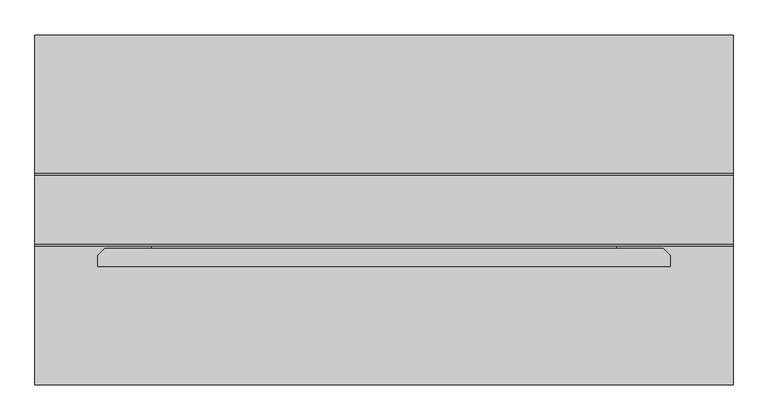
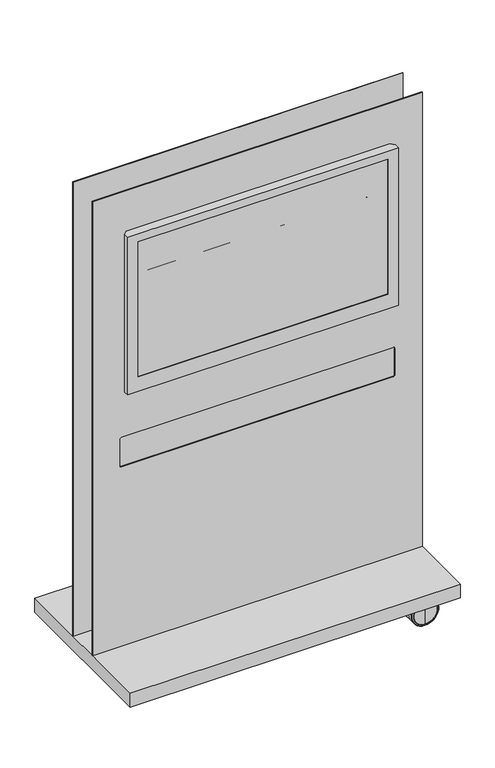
"""IFC4 building model written with IfcOpenShell, lengths in millimetres: furniture geometry, Steelcase Coalesse - Exponents - Storage - Mobile Display Board : Mediaboard."""

from ifc_helpers import new_model, si_unit, point, frame, frame_2d, origin, place, context, project, spatial, polyline, circle_curve, ellipse_curve, trimmed, segment, composite_curve, outline, extrude, faceted_brep, source, transform, mapped, element, save
from ifc_brep_helpers import plane_surface, cylinder_surface, revolved_surface, advanced_brep


def furniture_46024d2c(model_context):
    return source(origin(), model_context, "Body", "SolidModel", [
        faceted_brep([(1109.6625, 90.0328683, 1772.75196), (1097.1304915, 102.5648768, 1772.75196), (122.0695085, 102.5648768, 1772.75196), (109.5375, 90.0328683, 1772.75196), (109.5375, 70.9828683, 1772.75196), (1109.6625, 70.9828683, 1772.75196), (1109.6625, 90.0328683, 1156.80196), (1109.6625, 70.9828683, 1156.80196), (109.5375, 70.9828683, 1156.80196), (109.5375, 90.0328683, 1156.80196), (122.0695085, 102.5648768, 1156.80196), (1097.1304915, 102.5648768, 1156.80196), (147.6375, 70.9828683, 1213.95196), (147.6375, 70.9828683, 1741.00196), (1071.5625, 70.9828683, 1741.00196), (1071.5625, 70.9828683, 1213.95196), (147.6375, 73.5228683, 1741.00196), (147.6375, 73.5228683, 1213.95196), (1071.5625, 73.5228683, 1741.00196), (1071.5625, 73.5228683, 1213.95196)], [[[0, 1, 2, 3, 4, 5]], [[6, 7, 8, 9, 10, 11]], [[1, 0, 6, 11]], [[2, 1, 11, 10]], [[3, 2, 10, 9]], [[4, 3, 9, 8]], [[5, 4, 8, 7], [12, 13, 14, 15]], [[0, 5, 7, 6]], [[16, 13, 12, 17]], [[18, 19, 15, 14]], [[16, 17, 19, 18]], [[17, 12, 15, 19]], [[13, 16, 18, 14]]]),
        extrude(outline(polyline([(1219.2, 231.2568925), (0.0, 231.2568925), (0.0, 233.7968925), (1219.2, 233.7968925), (1219.2, 231.2568925)])), frame((0.0, 0.0, 155.2702), z_axis=(0.0, 0.0, 1.0), x_axis=(1.0, 0.0, 0.0)), (0.0, 0.0, 1.0), 1773.428),
        extrude(outline(polyline([(1928.6982, 1219.2), (1928.6982, 0.0), (155.2702, 0.0), (155.2702, 1219.2), (1928.6982, 1219.2)]), holes=[polyline([(1376.705357, 351.6850016), (1376.705357, 424.2850033), (1304.1054279, 424.2850033), (1304.1054279, 351.6850016), (1376.705357, 351.6850016)]), polyline([(1380.3122589, 664.3150105), (1329.512162, 664.3150105), (1329.512162, 554.8849895), (1380.3122589, 554.8849895), (1380.3122589, 664.3150105)]), polyline([(1376.705357, 867.5149984), (1304.1054279, 867.5149984), (1304.1054279, 794.9149967), (1376.705357, 794.9149967), (1376.705357, 867.5149984)]), composite_curve([segment(polyline([(969.6054239, 107.950003), (969.6054239, 1111.249997)]), True, "CONTINUOUS"), segment(trimmed(circle_curve(frame_2d((963.2554239, 1111.249997)), 6.35), [point((969.6054239, 1111.249997))], [point((963.2554239, 1117.599997))], True, "CARTESIAN"), True, "CONTINUOUS"), segment(polyline([(963.2554239, 1117.599997), (861.6554239, 1117.599997)]), True, "CONTINUOUS"), segment(trimmed(circle_curve(frame_2d((861.6554239, 1111.249997)), 6.35), [point((861.6554239, 1117.599997))], [point((855.3054239, 1111.249997))], True, "CARTESIAN"), True, "CONTINUOUS"), segment(polyline([(855.3054239, 1111.249997), (855.3054239, 107.950003)]), True, "CONTINUOUS"), segment(trimmed(circle_curve(frame_2d((861.6554239, 107.950003)), 6.35), [point((855.3054239, 107.950003))], [point((861.6554239, 101.600003))], True, "CARTESIAN"), True, "CONTINUOUS"), segment(polyline([(861.6554239, 101.600003), (963.2554239, 101.600003)]), True, "CONTINUOUS"), segment(trimmed(circle_curve(frame_2d((963.2554239, 107.950003)), 6.35), [point((963.2554239, 101.600003))], [point((969.6054239, 107.950003))], True, "CARTESIAN"), True, "CONTINUOUS")], self_intersect=False)]), frame((0.0, 106.7968683, 0.0), z_axis=(0.0, 1.0, 0.0), x_axis=(0.0, 0.0, 1.0)), (0.0, 0.0, 1.0), 2.54),
        extrude(outline(composite_curve([segment(polyline([(94.452491, 1584.0963318), (94.452491, 1591.6403974)]), True, "CONTINUOUS"), segment(trimmed(circle_curve(frame_2d((97.8304331, 1591.6403974)), 3.3779422), [point((94.452491, 1591.6403974))], [point((97.8304331, 1595.0183395))], False, "CARTESIAN"), True, "CONTINUOUS"), segment(polyline([(97.8304331, 1595.0183395), (103.7812926, 1595.0183395)]), True, "CONTINUOUS"), segment(trimmed(circle_curve(frame_2d((103.7812926, 1592.0027454)), 3.0155942), [point((103.7812926, 1595.0183395))], [point((106.7968868, 1592.0027454))], False, "CARTESIAN"), True, "CONTINUOUS"), segment(polyline([(106.7968868, 1592.0027454), (106.7968868, 1383.609313)]), True, "CONTINUOUS"), segment(trimmed(circle_curve(frame_2d((103.8807688, 1383.609313)), 2.9161181), [point((106.7968868, 1383.609313))], [point((103.8807688, 1380.693195))], False, "CARTESIAN"), True, "CONTINUOUS"), segment(polyline([(103.8807688, 1380.693195), (97.9328471, 1380.693195)]), True, "CONTINUOUS"), segment(trimmed(circle_curve(frame_2d((97.9328471, 1379.7020401)), 0.9911549), [point((97.9328471, 1380.693195))], [point((96.9416922, 1379.7020401))], True, "CARTESIAN"), True, "CONTINUOUS"), segment(polyline([(96.9416922, 1379.7020401), (96.9416922, 1371.3459457), (94.2747039, 1371.3459457), (94.2747039, 1380.1154779)]), True, "CONTINUOUS"), segment(trimmed(circle_curve(frame_2d((97.5194093, 1380.1154779)), 3.2447054), [point((94.2747039, 1380.1154779))], [point((97.5194093, 1383.3601833))], False, "CARTESIAN"), True, "CONTINUOUS"), segment(polyline([(97.5194093, 1383.3601833), (103.3727516, 1383.3601833)]), True, "CONTINUOUS"), segment(trimmed(circle_curve(frame_2d((103.3727516, 1384.1173116)), 0.7571283), [point((103.3727516, 1383.3601833))], [point((104.1298799, 1384.1173116))], True, "CARTESIAN"), True, "CONTINUOUS"), segment(polyline([(104.1298799, 1384.1173116), (104.1298799, 1591.8476878)]), True, "CONTINUOUS"), segment(trimmed(circle_curve(frame_2d((103.6262165, 1591.8476878)), 0.5036634), [point((104.1298799, 1591.8476878))], [point((103.6262165, 1592.3513512))], True, "CARTESIAN"), True, "CONTINUOUS"), segment(polyline([(103.6262165, 1592.3513512), (98.3051511, 1592.3513512)]), True, "CONTINUOUS"), segment(trimmed(circle_curve(frame_2d((98.3051511, 1591.1656794)), 1.1856717), [point((98.3051511, 1592.3513512))], [point((97.1194793, 1591.1656794))], True, "CARTESIAN"), True, "CONTINUOUS"), segment(polyline([(97.1194793, 1591.1656794), (97.1194793, 1584.0963318), (94.452491, 1584.0963318)]), True, "CONTINUOUS")], self_intersect=False)), frame((203.835, 0.0, 0.0), z_axis=(1.0, 0.0, 0.0), x_axis=(0.0, 1.0, 0.0)), (0.0, 0.0, 1.0), 811.53),
        advanced_brep(
        [(1117.599997, -28.9699484, 93.7248565), (1117.599997, -28.9699484, 7.16417), (1117.599997, -28.9699484, 50.4445132), (1117.599997, -29.195866, 95.950615), (1117.599997, -29.195866, 4.9384115), (1117.599997, -31.890984, 99.0695917), (1117.599997, -31.890984, 1.8194348), (1117.599997, -31.890984, 100.8890265), (1117.599997, -31.890984, 0.0), (1117.599997, -47.5881484, 100.8890265), (1117.599997, -47.5881484, 0.0), (1117.599997, -47.5881484, 67.9452274), (1117.599997, -47.5881484, 32.943799), (1117.599997, -51.5441984, 67.9452274), (1117.599997, -51.5441984, 32.943799), (1117.599997, -51.5441984, 50.4445132)],
        [
            (0, 1, circle_curve(frame((1117.599997, -28.9699484, 50.4445132), z_axis=(0.0, 1.0, 0.0), x_axis=(0.0, 0.0, -1.0)), 43.2803433)),
            (1, 2),
            (2, 0),
            (1, 0, circle_curve(frame((1117.599997, -28.9699484, 50.4445132), z_axis=(0.0, 1.0, 0.0), x_axis=(0.0, 0.0, -1.0)), 43.2803433)),
            (3, 4, circle_curve(frame((1117.599997, -29.195866, 50.4445132), z_axis=(0.0, 1.0, 0.0), x_axis=(0.0, 0.0, -1.0)), 45.5061018)),
            (4, 1, circle_curve(frame((1117.599997, -40.0470836, 7.16417), z_axis=(1.0, 0.0, 0.0), x_axis=(0.0, 1.0, 0.0)), 11.0771352)),
            (0, 3, circle_curve(frame((1117.599997, -40.0470836, 93.7248565), z_axis=(1.0, 0.0, 0.0), x_axis=(0.0, 1.0, 0.0)), 11.0771352)),
            (4, 3, circle_curve(frame((1117.599997, -29.195866, 50.4445132), z_axis=(0.0, 1.0, 0.0), x_axis=(0.0, 0.0, -1.0)), 45.5061018)),
            (5, 6, circle_curve(frame((1117.599997, -31.890984, 50.4445132), z_axis=(0.0, 1.0, 0.0), x_axis=(0.0, 0.0, -1.0)), 48.6250784)),
            (6, 4, circle_curve(frame((1117.599997, -33.3293578, 5.7862568), z_axis=(1.0, 0.0, 0.0), x_axis=(0.0, 1.0, 0.0)), 4.2195493)),
            (3, 5, circle_curve(frame((1117.599997, -33.3293578, 95.1027696), z_axis=(1.0, 0.0, 0.0), x_axis=(0.0, 1.0, 0.0)), 4.2195493)),
            (6, 5, circle_curve(frame((1117.599997, -31.890984, 50.4445132), z_axis=(0.0, 1.0, 0.0), x_axis=(0.0, 0.0, -1.0)), 48.6250784)),
            (7, 8, circle_curve(frame((1117.599997, -31.890984, 50.4445132), z_axis=(0.0, 1.0, 0.0), x_axis=(0.0, 0.0, -1.0)), 50.4445132)),
            (8, 6),
            (5, 7),
            (8, 7, circle_curve(frame((1117.599997, -31.890984, 50.4445132), z_axis=(0.0, 1.0, 0.0), x_axis=(0.0, 0.0, -1.0)), 50.4445132)),
            (9, 10, circle_curve(frame((1117.599997, -47.5881484, 50.4445132), z_axis=(0.0, 1.0, 0.0), x_axis=(0.0, 0.0, -1.0)), 50.4445132)),
            (10, 8),
            (7, 9),
            (10, 9, circle_curve(frame((1117.599997, -47.5881484, 50.4445132), z_axis=(0.0, 1.0, 0.0), x_axis=(0.0, 0.0, -1.0)), 50.4445132)),
            (11, 12, circle_curve(frame((1117.599997, -47.5881484, 50.4445132), z_axis=(0.0, 1.0, 0.0), x_axis=(0.0, 0.0, -1.0)), 17.5007142)),
            (12, 10),
            (9, 11),
            (12, 11, circle_curve(frame((1117.599997, -47.5881484, 50.4445132), z_axis=(0.0, 1.0, 0.0), x_axis=(0.0, 0.0, -1.0)), 17.5007142)),
            (13, 14, circle_curve(frame((1117.599997, -51.5441984, 50.4445132), z_axis=(0.0, 1.0, 0.0), x_axis=(0.0, 0.0, -1.0)), 17.5007142)),
            (14, 12),
            (11, 13),
            (14, 13, circle_curve(frame((1117.599997, -51.5441984, 50.4445132), z_axis=(0.0, 1.0, 0.0), x_axis=(0.0, 0.0, -1.0)), 17.5007142)),
            (15, 14),
            (13, 15),
        ],
        [
            plane_surface(frame((1117.599997, -28.9699484, 50.4445132), z_axis=(0.0, 1.0, 0.0), x_axis=(0.0, 0.0, -1.0))),
            revolved_surface(trimmed(ellipse_curve(frame((1117.599997, -40.0470836, 7.16417), z_axis=(-1.0, 0.0, 0.0), x_axis=(0.0, 1.0, 0.0)), 11.0771352, 11.0771352), [point((1117.599997, -28.9699484, 7.16417))], [point((1117.599997, -29.195866, 4.9384115))], True, "CARTESIAN"), (1117.599997, -32.3354484, 50.4445132), (0.0, -1.0, 0.0)),
            revolved_surface(trimmed(ellipse_curve(frame((1117.599997, -33.3293578, 5.7862568), z_axis=(-1.0, 0.0, 0.0), x_axis=(0.0, 1.0, 0.0)), 4.2195493, 4.2195493), [point((1117.599997, -29.195866, 4.9384115))], [point((1117.599997, -31.890984, 1.8194348))], True, "CARTESIAN"), (1117.599997, -32.3354484, 50.4445132), (0.0, -1.0, 0.0)),
            plane_surface(frame((1117.599997, -31.890984, 50.4445132), z_axis=(0.0, 1.0, 0.0), x_axis=(0.0, 0.0, -1.0))),
            cylinder_surface(frame((1117.599997, -32.3354484, 50.4445132), z_axis=(0.0, -1.0, 0.0), x_axis=(0.0, 0.0, -1.0)), 50.4445132),
            plane_surface(frame((1117.599997, -47.5881484, 50.4445132), z_axis=(0.0, -1.0, 0.0), x_axis=(0.0, 0.0, -1.0))),
            cylinder_surface(frame((1117.599997, -32.3354484, 50.4445132), z_axis=(0.0, -1.0, 0.0), x_axis=(0.0, 0.0, -1.0)), 17.5007142),
            plane_surface(frame((1117.599997, -51.5441984, 50.4445132), z_axis=(0.0, -1.0, 0.0), x_axis=(0.0, 0.0, -1.0))),
        ],
        [
            (0, [[1, 2, 3]]),
            (0, [[4, -3, -2]]),
            (1, [[5, 6, -1, 7]]),
            (1, [[8, -7, -4, -6]]),
            (2, [[9, 10, -5, 11]]),
            (2, [[12, -11, -8, -10]]),
            (3, [[13, 14, -9, 15]]),
            (3, [[16, -15, -12, -14]]),
            (4, [[17, 18, -13, 19]]),
            (4, [[20, -19, -16, -18]]),
            (5, [[21, 22, -17, 23]]),
            (5, [[24, -23, -20, -22]]),
            (6, [[25, 26, -21, 27]]),
            (6, [[28, -27, -24, -26]]),
            (7, [[29, -25, 30]]),
            (7, [[-30, -28, -29]]),
        ],
    ),
        extrude(outline(composite_curve([segment(polyline([(51.3715027, 1147.8132923), (28.4632097, 1147.8132923)]), True, "CONTINUOUS"), segment(trimmed(circle_curve(frame_2d((55.7451933, 1115.4082185)), 42.360305), [point((28.4632097, 1147.8132923))], [point((92.46506, 1136.5280393))], False, "CARTESIAN"), True, "CONTINUOUS"), segment(trimmed(circle_curve(frame_2d((52.6047711, 1117.4750938)), 44.1798299), [point((92.46506, 1136.5280393))], [point((51.3715027, 1073.3124804))], False, "CARTESIAN"), True, "CONTINUOUS"), segment(polyline([(51.3715027, 1073.3124804), (51.3715027, 1147.8132923)]), True, "CONTINUOUS")], self_intersect=False)), frame((0.0, -71.1936132, 0.0), z_axis=(0.0, 1.0, 0.0), x_axis=(0.0, 0.0, 1.0)), (0.0, 0.0, 1.0), 23.6054648),
        extrude(outline(composite_curve([segment(trimmed(circle_curve(frame_2d((1103.2846799, -59.3908808)), 7.6088517), [point((1103.2846799, -51.7820291))], [point((1103.2846799, -66.9997325))], False, "CARTESIAN"), True, "CONTINUOUS"), segment(trimmed(circle_curve(frame_2d((1103.2846799, -59.3908808)), 7.6088517), [point((1103.2846799, -66.9997325))], [point((1103.2846799, -51.7820291))], False, "CARTESIAN"), True, "CONTINUOUS")], self_intersect=False)), frame((0.0, 0.0, 71.2879049), z_axis=(0.0, 0.0, 1.0), x_axis=(1.0, 0.0, 0.0)), (0.0, 0.0, 1.0), 48.3206977),
        extrude(outline(polyline([(1130.9222923, -86.9387325), (1075.8042923, -86.9387325), (1075.8042923, -31.8207325), (1130.9222923, -31.8207325), (1130.9222923, -86.9387325)])), frame((0.0, 0.0, 119.6086027), z_axis=(0.0, 0.0, 1.0), x_axis=(1.0, 0.0, 0.0)), (0.0, 0.0, 1.0), 3.302),
        advanced_brep(
        [(1117.599997, -67.2375632, 67.9452274), (1117.599997, -67.2375632, 32.943799), (1117.599997, -67.2375632, 50.4445132), (1117.599997, -71.1936132, 67.9452274), (1117.599997, -71.1936132, 32.943799), (1117.599997, -71.1936132, 100.8890265), (1117.599997, -71.1936132, 0.0), (1117.599997, -86.8907776, 100.8890265), (1117.599997, -86.8907776, 0.0), (1117.599997, -86.8907776, 99.0695917), (1117.599997, -86.8907776, 1.8194348), (1117.599997, -89.5858956, 95.950615), (1117.599997, -89.5858956, 4.9384115), (1117.599997, -89.8118132, 93.7248565), (1117.599997, -89.8118132, 7.16417), (1117.599997, -89.8118132, 50.4445132)],
        [
            (0, 1, circle_curve(frame((1117.599997, -67.2375632, 50.4445132), z_axis=(0.0, 1.0, 0.0), x_axis=(0.0, 0.0, -1.0)), 17.5007142)),
            (1, 2),
            (2, 0),
            (1, 0, circle_curve(frame((1117.599997, -67.2375632, 50.4445132), z_axis=(0.0, 1.0, 0.0), x_axis=(0.0, 0.0, -1.0)), 17.5007142)),
            (3, 4, circle_curve(frame((1117.599997, -71.1936132, 50.4445132), z_axis=(0.0, 1.0, 0.0), x_axis=(0.0, 0.0, -1.0)), 17.5007142)),
            (4, 1),
            (0, 3),
            (4, 3, circle_curve(frame((1117.599997, -71.1936132, 50.4445132), z_axis=(0.0, 1.0, 0.0), x_axis=(0.0, 0.0, -1.0)), 17.5007142)),
            (5, 6, circle_curve(frame((1117.599997, -71.1936132, 50.4445132), z_axis=(0.0, 1.0, 0.0), x_axis=(0.0, 0.0, -1.0)), 50.4445132)),
            (6, 4),
            (3, 5),
            (6, 5, circle_curve(frame((1117.599997, -71.1936132, 50.4445132), z_axis=(0.0, 1.0, 0.0), x_axis=(0.0, 0.0, -1.0)), 50.4445132)),
            (7, 8, circle_curve(frame((1117.599997, -86.8907776, 50.4445132), z_axis=(0.0, 1.0, 0.0), x_axis=(0.0, 0.0, -1.0)), 50.4445132)),
            (8, 6),
            (5, 7),
            (8, 7, circle_curve(frame((1117.599997, -86.8907776, 50.4445132), z_axis=(0.0, 1.0, 0.0), x_axis=(0.0, 0.0, -1.0)), 50.4445132)),
            (9, 10, circle_curve(frame((1117.599997, -86.8907776, 50.4445132), z_axis=(0.0, 1.0, 0.0), x_axis=(0.0, 0.0, -1.0)), 48.6250784)),
            (10, 8),
            (7, 9),
            (10, 9, circle_curve(frame((1117.599997, -86.8907776, 50.4445132), z_axis=(0.0, 1.0, 0.0), x_axis=(0.0, 0.0, -1.0)), 48.6250784)),
            (11, 12, circle_curve(frame((1117.599997, -89.5858956, 50.4445132), z_axis=(0.0, 1.0, 0.0), x_axis=(0.0, 0.0, -1.0)), 45.5061018)),
            (12, 10, circle_curve(frame((1117.599997, -85.4524038, 5.7862568), z_axis=(1.0, 0.0, 0.0), x_axis=(0.0, 1.0, 0.0)), 4.2195493)),
            (9, 11, circle_curve(frame((1117.599997, -85.4524038, 95.1027696), z_axis=(1.0, 0.0, 0.0), x_axis=(0.0, 1.0, 0.0)), 4.2195493)),
            (12, 11, circle_curve(frame((1117.599997, -89.5858956, 50.4445132), z_axis=(0.0, 1.0, 0.0), x_axis=(0.0, 0.0, -1.0)), 45.5061018)),
            (13, 14, circle_curve(frame((1117.599997, -89.8118132, 50.4445132), z_axis=(0.0, 1.0, 0.0), x_axis=(0.0, 0.0, -1.0)), 43.2803433)),
            (14, 12, circle_curve(frame((1117.599997, -78.734678, 7.16417), z_axis=(1.0, 0.0, 0.0), x_axis=(0.0, 1.0, 0.0)), 11.0771352)),
            (11, 13, circle_curve(frame((1117.599997, -78.734678, 93.7248565), z_axis=(1.0, 0.0, 0.0), x_axis=(0.0, 1.0, 0.0)), 11.0771352)),
            (14, 13, circle_curve(frame((1117.599997, -89.8118132, 50.4445132), z_axis=(0.0, 1.0, 0.0), x_axis=(0.0, 0.0, -1.0)), 43.2803433)),
            (15, 14),
            (13, 15),
        ],
        [
            plane_surface(frame((1117.599997, -67.2375632, 50.4445132), z_axis=(0.0, 1.0, 0.0), x_axis=(0.0, 0.0, -1.0))),
            cylinder_surface(frame((1117.599997, -86.4463132, 50.4445132), z_axis=(0.0, -1.0, 0.0), x_axis=(0.0, 0.0, -1.0)), 17.5007142),
            plane_surface(frame((1117.599997, -71.1936132, 50.4445132), z_axis=(0.0, 1.0, 0.0), x_axis=(0.0, 0.0, -1.0))),
            cylinder_surface(frame((1117.599997, -86.4463132, 50.4445132), z_axis=(0.0, -1.0, 0.0), x_axis=(0.0, 0.0, -1.0)), 50.4445132),
            plane_surface(frame((1117.599997, -86.8907776, 50.4445132), z_axis=(0.0, -1.0, 0.0), x_axis=(0.0, 0.0, -1.0))),
            revolved_surface(trimmed(ellipse_curve(frame((1117.599997, -85.4524038, 5.7862568), z_axis=(-1.0, 0.0, 0.0), x_axis=(0.0, 1.0, 0.0)), 4.2195493, 4.2195493), [point((1117.599997, -86.8907776, 1.8194348))], [point((1117.599997, -89.5858956, 4.9384115))], True, "CARTESIAN"), (1117.599997, -86.4463132, 50.4445132), (0.0, -1.0, 0.0)),
            revolved_surface(trimmed(ellipse_curve(frame((1117.599997, -78.734678, 7.16417), z_axis=(-1.0, 0.0, 0.0), x_axis=(0.0, 1.0, 0.0)), 11.0771352, 11.0771352), [point((1117.599997, -89.5858956, 4.9384115))], [point((1117.599997, -89.8118132, 7.16417))], True, "CARTESIAN"), (1117.599997, -86.4463132, 50.4445132), (0.0, -1.0, 0.0)),
            plane_surface(frame((1117.599997, -89.8118132, 50.4445132), z_axis=(0.0, -1.0, 0.0), x_axis=(0.0, 0.0, -1.0))),
        ],
        [
            (0, [[1, 2, 3]]),
            (0, [[4, -3, -2]]),
            (1, [[5, 6, -1, 7]]),
            (1, [[8, -7, -4, -6]]),
            (2, [[9, 10, -5, 11]]),
            (2, [[12, -11, -8, -10]]),
            (3, [[13, 14, -9, 15]]),
            (3, [[16, -15, -12, -14]]),
            (4, [[17, 18, -13, 19]]),
            (4, [[20, -19, -16, -18]]),
            (5, [[21, 22, -17, 23]]),
            (5, [[24, -23, -20, -22]]),
            (6, [[25, 26, -21, 27]]),
            (6, [[28, -27, -24, -26]]),
            (7, [[29, -25, 30]]),
            (7, [[-30, -28, -29]]),
        ],
    ),
        advanced_brep(
        [(1117.599997, 392.1379592, 67.9452274), (1117.599997, 392.1379592, 32.943799), (1117.599997, 392.1379592, 50.4445132), (1117.599997, 388.1819092, 67.9452274), (1117.599997, 388.1819092, 32.943799), (1117.599997, 388.1819092, 100.8890265), (1117.599997, 388.1819092, 0.0), (1117.599997, 372.4847448, 100.8890265), (1117.599997, 372.4847448, 0.0), (1117.599997, 372.4847448, 99.0695917), (1117.599997, 372.4847448, 1.8194348), (1117.599997, 369.7896268, 95.950615), (1117.599997, 369.7896268, 4.9384115), (1117.599997, 369.5637092, 93.7248565), (1117.599997, 369.5637092, 7.16417), (1117.599997, 369.5637092, 50.4445132)],
        [
            (0, 1, circle_curve(frame((1117.599997, 392.1379592, 50.4445132), z_axis=(0.0, 1.0, 0.0), x_axis=(0.0, 0.0, -1.0)), 17.5007142)),
            (1, 2),
            (2, 0),
            (1, 0, circle_curve(frame((1117.599997, 392.1379592, 50.4445132), z_axis=(0.0, 1.0, 0.0), x_axis=(0.0, 0.0, -1.0)), 17.5007142)),
            (3, 4, circle_curve(frame((1117.599997, 388.1819092, 50.4445132), z_axis=(0.0, 1.0, 0.0), x_axis=(0.0, 0.0, -1.0)), 17.5007142)),
            (4, 1),
            (0, 3),
            (4, 3, circle_curve(frame((1117.599997, 388.1819092, 50.4445132), z_axis=(0.0, 1.0, 0.0), x_axis=(0.0, 0.0, -1.0)), 17.5007142)),
            (5, 6, circle_curve(frame((1117.599997, 388.1819092, 50.4445132), z_axis=(0.0, 1.0, 0.0), x_axis=(0.0, 0.0, -1.0)), 50.4445132)),
            (6, 4),
            (3, 5),
            (6, 5, circle_curve(frame((1117.599997, 388.1819092, 50.4445132), z_axis=(0.0, 1.0, 0.0), x_axis=(0.0, 0.0, -1.0)), 50.4445132)),
            (7, 8, circle_curve(frame((1117.599997, 372.4847448, 50.4445132), z_axis=(0.0, 1.0, 0.0), x_axis=(0.0, 0.0, -1.0)), 50.4445132)),
            (8, 6),
            (5, 7),
            (8, 7, circle_curve(frame((1117.599997, 372.4847448, 50.4445132), z_axis=(0.0, 1.0, 0.0), x_axis=(0.0, 0.0, -1.0)), 50.4445132)),
            (9, 10, circle_curve(frame((1117.599997, 372.4847448, 50.4445132), z_axis=(0.0, 1.0, 0.0), x_axis=(0.0, 0.0, -1.0)), 48.6250784)),
            (10, 8),
            (7, 9),
            (10, 9, circle_curve(frame((1117.599997, 372.4847448, 50.4445132), z_axis=(0.0, 1.0, 0.0), x_axis=(0.0, 0.0, -1.0)), 48.6250784)),
            (11, 12, circle_curve(frame((1117.599997, 369.7896268, 50.4445132), z_axis=(0.0, 1.0, 0.0), x_axis=(0.0, 0.0, -1.0)), 45.5061018)),
            (12, 10, circle_curve(frame((1117.599997, 373.9231187, 5.7862568), z_axis=(1.0, 0.0, 0.0), x_axis=(0.0, 1.0, 0.0)), 4.2195493)),
            (9, 11, circle_curve(frame((1117.599997, 373.9231187, 95.1027696), z_axis=(1.0, 0.0, 0.0), x_axis=(0.0, 1.0, 0.0)), 4.2195493)),
            (12, 11, circle_curve(frame((1117.599997, 369.7896268, 50.4445132), z_axis=(0.0, 1.0, 0.0), x_axis=(0.0, 0.0, -1.0)), 45.5061018)),
            (13, 14, circle_curve(frame((1117.599997, 369.5637092, 50.4445132), z_axis=(0.0, 1.0, 0.0), x_axis=(0.0, 0.0, -1.0)), 43.2803433)),
            (14, 12, circle_curve(frame((1117.599997, 380.6408444, 7.16417), z_axis=(1.0, 0.0, 0.0), x_axis=(0.0, 1.0, 0.0)), 11.0771352)),
            (11, 13, circle_curve(frame((1117.599997, 380.6408444, 93.7248565), z_axis=(1.0, 0.0, 0.0), x_axis=(0.0, 1.0, 0.0)), 11.0771352)),
            (14, 13, circle_curve(frame((1117.599997, 369.5637092, 50.4445132), z_axis=(0.0, 1.0, 0.0), x_axis=(0.0, 0.0, -1.0)), 43.2803433)),
            (15, 14),
            (13, 15),
        ],
        [
            plane_surface(frame((1117.599997, 392.1379592, 50.4445132), z_axis=(0.0, 1.0, 0.0), x_axis=(0.0, 0.0, -1.0))),
            cylinder_surface(frame((1117.599997, 372.9292092, 50.4445132), z_axis=(0.0, -1.0, 0.0), x_axis=(0.0, 0.0, -1.0)), 17.5007142),
            plane_surface(frame((1117.599997, 388.1819092, 50.4445132), z_axis=(0.0, 1.0, 0.0), x_axis=(0.0, 0.0, -1.0))),
            cylinder_surface(frame((1117.599997, 372.9292092, 50.4445132), z_axis=(0.0, -1.0, 0.0), x_axis=(0.0, 0.0, -1.0)), 50.4445132),
            plane_surface(frame((1117.599997, 372.4847448, 50.4445132), z_axis=(0.0, -1.0, 0.0), x_axis=(0.0, 0.0, -1.0))),
            revolved_surface(trimmed(ellipse_curve(frame((1117.599997, 373.9231187, 5.7862568), z_axis=(-1.0, 0.0, 0.0), x_axis=(0.0, 1.0, 0.0)), 4.2195493, 4.2195493), [point((1117.599997, 372.4847448, 1.8194348))], [point((1117.599997, 369.7896268, 4.9384115))], True, "CARTESIAN"), (1117.599997, 372.9292092, 50.4445132), (0.0, -1.0, 0.0)),
            revolved_surface(trimmed(ellipse_curve(frame((1117.599997, 380.6408444, 7.16417), z_axis=(-1.0, 0.0, 0.0), x_axis=(0.0, 1.0, 0.0)), 11.0771352, 11.0771352), [point((1117.599997, 369.7896268, 4.9384115))], [point((1117.599997, 369.5637092, 7.16417))], True, "CARTESIAN"), (1117.599997, 372.9292092, 50.4445132), (0.0, -1.0, 0.0)),
            plane_surface(frame((1117.599997, 369.5637092, 50.4445132), z_axis=(0.0, -1.0, 0.0), x_axis=(0.0, 0.0, -1.0))),
        ],
        [
            (0, [[1, 2, 3]]),
            (0, [[4, -3, -2]]),
            (1, [[5, 6, -1, 7]]),
            (1, [[8, -7, -4, -6]]),
            (2, [[9, 10, -5, 11]]),
            (2, [[12, -11, -8, -10]]),
            (3, [[13, 14, -9, 15]]),
            (3, [[16, -15, -12, -14]]),
            (4, [[17, 18, -13, 19]]),
            (4, [[20, -19, -16, -18]]),
            (5, [[21, 22, -17, 23]]),
            (5, [[24, -23, -20, -22]]),
            (6, [[25, 26, -21, 27]]),
            (6, [[28, -27, -24, -26]]),
            (7, [[29, -25, 30]]),
            (7, [[-30, -28, -29]]),
        ],
    ),
        extrude(outline(composite_curve([segment(polyline([(51.3715027, 1147.8132923), (28.4632097, 1147.8132923)]), True, "CONTINUOUS"), segment(trimmed(circle_curve(frame_2d((55.7451933, 1115.4082185)), 42.360305), [point((28.4632097, 1147.8132923))], [point((92.46506, 1136.5280393))], False, "CARTESIAN"), True, "CONTINUOUS"), segment(trimmed(circle_curve(frame_2d((52.6047711, 1117.4750938)), 44.1798299), [point((92.46506, 1136.5280393))], [point((51.3715027, 1073.3124804))], False, "CARTESIAN"), True, "CONTINUOUS"), segment(polyline([(51.3715027, 1073.3124804), (51.3715027, 1147.8132923)]), True, "CONTINUOUS")], self_intersect=False)), frame((0.0, 388.1819092, 0.0), z_axis=(0.0, 1.0, 0.0), x_axis=(0.0, 0.0, 1.0)), (0.0, 0.0, 1.0), 23.6054648),
        extrude(outline(composite_curve([segment(trimmed(circle_curve(frame_2d((1103.2846799, 399.9846416)), 7.6088517), [point((1103.2846799, 392.3757899))], [point((1103.2846799, 407.5934933))], False, "CARTESIAN"), True, "CONTINUOUS"), segment(trimmed(circle_curve(frame_2d((1103.2846799, 399.9846416)), 7.6088517), [point((1103.2846799, 407.5934933))], [point((1103.2846799, 392.3757899))], False, "CARTESIAN"), True, "CONTINUOUS")], self_intersect=False)), frame((0.0, 0.0, 71.2879049), z_axis=(0.0, 0.0, 1.0), x_axis=(1.0, 0.0, 0.0)), (0.0, 0.0, 1.0), 48.3206977),
        extrude(outline(polyline([(1130.9222923, 427.5324933), (1130.9222923, 372.4144933), (1075.8042923, 372.4144933), (1075.8042923, 427.5324933), (1130.9222923, 427.5324933)])), frame((0.0, 0.0, 119.6086027), z_axis=(0.0, 0.0, 1.0), x_axis=(1.0, 0.0, 0.0)), (0.0, 0.0, 1.0), 3.302),
        advanced_brep(
        [(1117.599997, 430.405574, 93.7248565), (1117.599997, 430.405574, 7.16417), (1117.599997, 430.405574, 50.4445132), (1117.599997, 430.1796564, 95.950615), (1117.599997, 430.1796564, 4.9384115), (1117.599997, 427.4845384, 99.0695917), (1117.599997, 427.4845384, 1.8194348), (1117.599997, 427.4845384, 100.8890265), (1117.599997, 427.4845384, 0.0), (1117.599997, 411.787374, 100.8890265), (1117.599997, 411.787374, 0.0), (1117.599997, 411.787374, 67.9452274), (1117.599997, 411.787374, 32.943799), (1117.599997, 407.831324, 67.9452274), (1117.599997, 407.831324, 32.943799), (1117.599997, 407.831324, 50.4445132)],
        [
            (0, 1, circle_curve(frame((1117.599997, 430.405574, 50.4445132), z_axis=(0.0, 1.0, 0.0), x_axis=(0.0, 0.0, -1.0)), 43.2803433)),
            (1, 2),
            (2, 0),
            (1, 0, circle_curve(frame((1117.599997, 430.405574, 50.4445132), z_axis=(0.0, 1.0, 0.0), x_axis=(0.0, 0.0, -1.0)), 43.2803433)),
            (3, 4, circle_curve(frame((1117.599997, 430.1796564, 50.4445132), z_axis=(0.0, 1.0, 0.0), x_axis=(0.0, 0.0, -1.0)), 45.5061018)),
            (4, 1, circle_curve(frame((1117.599997, 419.3284388, 7.16417), z_axis=(1.0, 0.0, 0.0), x_axis=(0.0, 1.0, 0.0)), 11.0771352)),
            (0, 3, circle_curve(frame((1117.599997, 419.3284388, 93.7248565), z_axis=(1.0, 0.0, 0.0), x_axis=(0.0, 1.0, 0.0)), 11.0771352)),
            (4, 3, circle_curve(frame((1117.599997, 430.1796564, 50.4445132), z_axis=(0.0, 1.0, 0.0), x_axis=(0.0, 0.0, -1.0)), 45.5061018)),
            (5, 6, circle_curve(frame((1117.599997, 427.4845384, 50.4445132), z_axis=(0.0, 1.0, 0.0), x_axis=(0.0, 0.0, -1.0)), 48.6250784)),
            (6, 4, circle_curve(frame((1117.599997, 426.0461646, 5.7862568), z_axis=(1.0, 0.0, 0.0), x_axis=(0.0, 1.0, 0.0)), 4.2195493)),
            (3, 5, circle_curve(frame((1117.599997, 426.0461646, 95.1027696), z_axis=(1.0, 0.0, 0.0), x_axis=(0.0, 1.0, 0.0)), 4.2195493)),
            (6, 5, circle_curve(frame((1117.599997, 427.4845384, 50.4445132), z_axis=(0.0, 1.0, 0.0), x_axis=(0.0, 0.0, -1.0)), 48.6250784)),
            (7, 8, circle_curve(frame((1117.599997, 427.4845384, 50.4445132), z_axis=(0.0, 1.0, 0.0), x_axis=(0.0, 0.0, -1.0)), 50.4445132)),
            (8, 6),
            (5, 7),
            (8, 7, circle_curve(frame((1117.599997, 427.4845384, 50.4445132), z_axis=(0.0, 1.0, 0.0), x_axis=(0.0, 0.0, -1.0)), 50.4445132)),
            (9, 10, circle_curve(frame((1117.599997, 411.787374, 50.4445132), z_axis=(0.0, 1.0, 0.0), x_axis=(0.0, 0.0, -1.0)), 50.4445132)),
            (10, 8),
            (7, 9),
            (10, 9, circle_curve(frame((1117.599997, 411.787374, 50.4445132), z_axis=(0.0, 1.0, 0.0), x_axis=(0.0, 0.0, -1.0)), 50.4445132)),
            (11, 12, circle_curve(frame((1117.599997, 411.787374, 50.4445132), z_axis=(0.0, 1.0, 0.0), x_axis=(0.0, 0.0, -1.0)), 17.5007142)),
            (12, 10),
            (9, 11),
            (12, 11, circle_curve(frame((1117.599997, 411.787374, 50.4445132), z_axis=(0.0, 1.0, 0.0), x_axis=(0.0, 0.0, -1.0)), 17.5007142)),
            (13, 14, circle_curve(frame((1117.599997, 407.831324, 50.4445132), z_axis=(0.0, 1.0, 0.0), x_axis=(0.0, 0.0, -1.0)), 17.5007142)),
            (14, 12),
            (11, 13),
            (14, 13, circle_curve(frame((1117.599997, 407.831324, 50.4445132), z_axis=(0.0, 1.0, 0.0), x_axis=(0.0, 0.0, -1.0)), 17.5007142)),
            (15, 14),
            (13, 15),
        ],
        [
            plane_surface(frame((1117.599997, 430.405574, 50.4445132), z_axis=(0.0, 1.0, 0.0), x_axis=(0.0, 0.0, -1.0))),
            revolved_surface(trimmed(ellipse_curve(frame((1117.599997, 419.3284388, 7.16417), z_axis=(-1.0, 0.0, 0.0), x_axis=(0.0, 1.0, 0.0)), 11.0771352, 11.0771352), [point((1117.599997, 430.405574, 7.16417))], [point((1117.599997, 430.1796564, 4.9384115))], True, "CARTESIAN"), (1117.599997, 427.040074, 50.4445132), (0.0, -1.0, 0.0)),
            revolved_surface(trimmed(ellipse_curve(frame((1117.599997, 426.0461646, 5.7862568), z_axis=(-1.0, 0.0, 0.0), x_axis=(0.0, 1.0, 0.0)), 4.2195493, 4.2195493), [point((1117.599997, 430.1796564, 4.9384115))], [point((1117.599997, 427.4845384, 1.8194348))], True, "CARTESIAN"), (1117.599997, 427.040074, 50.4445132), (0.0, -1.0, 0.0)),
            plane_surface(frame((1117.599997, 427.4845384, 50.4445132), z_axis=(0.0, 1.0, 0.0), x_axis=(0.0, 0.0, -1.0))),
            cylinder_surface(frame((1117.599997, 427.040074, 50.4445132), z_axis=(0.0, -1.0, 0.0), x_axis=(0.0, 0.0, -1.0)), 50.4445132),
            plane_surface(frame((1117.599997, 411.787374, 50.4445132), z_axis=(0.0, -1.0, 0.0), x_axis=(0.0, 0.0, -1.0))),
            cylinder_surface(frame((1117.599997, 427.040074, 50.4445132), z_axis=(0.0, -1.0, 0.0), x_axis=(0.0, 0.0, -1.0)), 17.5007142),
            plane_surface(frame((1117.599997, 407.831324, 50.4445132), z_axis=(0.0, -1.0, 0.0), x_axis=(0.0, 0.0, -1.0))),
        ],
        [
            (0, [[1, 2, 3]]),
            (0, [[4, -3, -2]]),
            (1, [[5, 6, -1, 7]]),
            (1, [[8, -7, -4, -6]]),
            (2, [[9, 10, -5, 11]]),
            (2, [[12, -11, -8, -10]]),
            (3, [[13, 14, -9, 15]]),
            (3, [[16, -15, -12, -14]]),
            (4, [[17, 18, -13, 19]]),
            (4, [[20, -19, -16, -18]]),
            (5, [[21, 22, -17, 23]]),
            (5, [[24, -23, -20, -22]]),
            (6, [[25, 26, -21, 27]]),
            (6, [[28, -27, -24, -26]]),
            (7, [[29, -25, 30]]),
            (7, [[-30, -28, -29]]),
        ],
    ),
        advanced_brep(
        [(121.6278984, 392.1379592, 67.9452274), (121.6278984, 392.1379592, 32.943799), (121.6278984, 392.1379592, 50.4445132), (121.6278984, 388.1819092, 67.9452274), (121.6278984, 388.1819092, 32.943799), (121.6278984, 388.1819092, 100.8890265), (121.6278984, 388.1819092, 0.0), (121.6278984, 372.4847448, 100.8890265), (121.6278984, 372.4847448, 0.0), (121.6278984, 372.4847448, 99.0695917), (121.6278984, 372.4847448, 1.8194348), (121.6278984, 369.7896268, 95.950615), (121.6278984, 369.7896268, 4.9384115), (121.6278984, 369.5637092, 93.7248565), (121.6278984, 369.5637092, 7.16417), (121.6278984, 369.5637092, 50.4445132)],
        [
            (0, 1, circle_curve(frame((121.6278984, 392.1379592, 50.4445132), z_axis=(0.0, 1.0, 0.0), x_axis=(0.0, 0.0, -1.0)), 17.5007142)),
            (1, 2),
            (2, 0),
            (1, 0, circle_curve(frame((121.6278984, 392.1379592, 50.4445132), z_axis=(0.0, 1.0, 0.0), x_axis=(0.0, 0.0, -1.0)), 17.5007142)),
            (3, 4, circle_curve(frame((121.6278984, 388.1819092, 50.4445132), z_axis=(0.0, 1.0, 0.0), x_axis=(0.0, 0.0, -1.0)), 17.5007142)),
            (4, 1),
            (0, 3),
            (4, 3, circle_curve(frame((121.6278984, 388.1819092, 50.4445132), z_axis=(0.0, 1.0, 0.0), x_axis=(0.0, 0.0, -1.0)), 17.5007142)),
            (5, 6, circle_curve(frame((121.6278984, 388.1819092, 50.4445132), z_axis=(0.0, 1.0, 0.0), x_axis=(0.0, 0.0, -1.0)), 50.4445132)),
            (6, 4),
            (3, 5),
            (6, 5, circle_curve(frame((121.6278984, 388.1819092, 50.4445132), z_axis=(0.0, 1.0, 0.0), x_axis=(0.0, 0.0, -1.0)), 50.4445132)),
            (7, 8, circle_curve(frame((121.6278984, 372.4847448, 50.4445132), z_axis=(0.0, 1.0, 0.0), x_axis=(0.0, 0.0, -1.0)), 50.4445132)),
            (8, 6),
            (5, 7),
            (8, 7, circle_curve(frame((121.6278984, 372.4847448, 50.4445132), z_axis=(0.0, 1.0, 0.0), x_axis=(0.0, 0.0, -1.0)), 50.4445132)),
            (9, 10, circle_curve(frame((121.6278984, 372.4847448, 50.4445132), z_axis=(0.0, 1.0, 0.0), x_axis=(0.0, 0.0, -1.0)), 48.6250784)),
            (10, 8),
            (7, 9),
            (10, 9, circle_curve(frame((121.6278984, 372.4847448, 50.4445132), z_axis=(0.0, 1.0, 0.0), x_axis=(0.0, 0.0, -1.0)), 48.6250784)),
            (11, 12, circle_curve(frame((121.6278984, 369.7896268, 50.4445132), z_axis=(0.0, 1.0, 0.0), x_axis=(0.0, 0.0, -1.0)), 45.5061018)),
            (12, 10, circle_curve(frame((121.6278984, 373.9231187, 5.7862568), z_axis=(1.0, 0.0, 0.0), x_axis=(0.0, -1.0, 0.0)), 4.2195493)),
            (9, 11, circle_curve(frame((121.6278984, 373.9231187, 95.1027696), z_axis=(1.0, 0.0, 0.0), x_axis=(0.0, -1.0, 0.0)), 4.2195493)),
            (12, 11, circle_curve(frame((121.6278984, 369.7896268, 50.4445132), z_axis=(0.0, 1.0, 0.0), x_axis=(0.0, 0.0, -1.0)), 45.5061018)),
            (13, 14, circle_curve(frame((121.6278984, 369.5637092, 50.4445132), z_axis=(0.0, 1.0, 0.0), x_axis=(0.0, 0.0, -1.0)), 43.2803433)),
            (14, 12, circle_curve(frame((121.6278984, 380.6408444, 7.16417), z_axis=(1.0, 0.0, 0.0), x_axis=(0.0, -1.0, 0.0)), 11.0771352)),
            (11, 13, circle_curve(frame((121.6278984, 380.6408444, 93.7248565), z_axis=(1.0, 0.0, 0.0), x_axis=(0.0, -1.0, 0.0)), 11.0771352)),
            (14, 13, circle_curve(frame((121.6278984, 369.5637092, 50.4445132), z_axis=(0.0, 1.0, 0.0), x_axis=(0.0, 0.0, -1.0)), 43.2803433)),
            (15, 14),
            (13, 15),
        ],
        [
            plane_surface(frame((121.6278984, 392.1379592, 50.4445132), z_axis=(0.0, 1.0, 0.0), x_axis=(0.0, 0.0, -1.0))),
            cylinder_surface(frame((121.6278984, 372.9292092, 50.4445132), z_axis=(0.0, -1.0, 0.0), x_axis=(0.0, 0.0, -1.0)), 17.5007142),
            plane_surface(frame((121.6278984, 388.1819092, 50.4445132), z_axis=(0.0, 1.0, 0.0), x_axis=(0.0, 0.0, -1.0))),
            cylinder_surface(frame((121.6278984, 372.9292092, 50.4445132), z_axis=(0.0, -1.0, 0.0), x_axis=(0.0, 0.0, -1.0)), 50.4445132),
            plane_surface(frame((121.6278984, 372.4847448, 50.4445132), z_axis=(0.0, -1.0, 0.0), x_axis=(0.0, 0.0, -1.0))),
            revolved_surface(trimmed(ellipse_curve(frame((121.6278984, 373.9231187, 5.7862568), z_axis=(-1.0, 0.0, 0.0), x_axis=(0.0, -1.0, 0.0)), 4.2195493, 4.2195493), [point((121.6278984, 372.4847448, 1.8194348))], [point((121.6278984, 369.7896268, 4.9384115))], True, "CARTESIAN"), (121.6278984, 372.9292092, 50.4445132), (0.0, -1.0, 0.0)),
            revolved_surface(trimmed(ellipse_curve(frame((121.6278984, 380.6408444, 7.16417), z_axis=(-1.0, 0.0, 0.0), x_axis=(0.0, -1.0, 0.0)), 11.0771352, 11.0771352), [point((121.6278984, 369.7896268, 4.9384115))], [point((121.6278984, 369.5637092, 7.16417))], True, "CARTESIAN"), (121.6278984, 372.9292092, 50.4445132), (0.0, -1.0, 0.0)),
            plane_surface(frame((121.6278984, 369.5637092, 50.4445132), z_axis=(0.0, -1.0, 0.0), x_axis=(0.0, 0.0, -1.0))),
        ],
        [
            (0, [[1, 2, 3]]),
            (0, [[4, -3, -2]]),
            (1, [[5, 6, -1, 7]]),
            (1, [[8, -7, -4, -6]]),
            (2, [[9, 10, -5, 11]]),
            (2, [[12, -11, -8, -10]]),
            (3, [[13, 14, -9, 15]]),
            (3, [[16, -15, -12, -14]]),
            (4, [[17, 18, -13, 19]]),
            (4, [[20, -19, -16, -18]]),
            (5, [[21, 22, -17, 23]]),
            (5, [[24, -23, -20, -22]]),
            (6, [[25, 26, -21, 27]]),
            (6, [[28, -27, -24, -26]]),
            (7, [[29, -25, 30]]),
            (7, [[-30, -28, -29]]),
        ],
    ),
        extrude(outline(composite_curve([segment(polyline([(51.3715027, 152.4507984), (28.4632097, 152.4507984)]), True, "CONTINUOUS"), segment(trimmed(circle_curve(frame_2d((55.7451933, 120.0457245)), 42.360305), [point((28.4632097, 152.4507984))], [point((92.46506, 141.1655453))], False, "CARTESIAN"), True, "CONTINUOUS"), segment(trimmed(circle_curve(frame_2d((52.6047711, 122.1125998)), 44.1798299), [point((92.46506, 141.1655453))], [point((51.3715027, 77.9499865))], False, "CARTESIAN"), True, "CONTINUOUS"), segment(polyline([(51.3715027, 77.9499865), (51.3715027, 152.4507984)]), True, "CONTINUOUS")], self_intersect=False)), frame((0.0, 388.1819092, 0.0), z_axis=(0.0, 1.0, 0.0), x_axis=(0.0, 0.0, 1.0)), (0.0, 0.0, 1.0), 23.6054648),
        extrude(outline(composite_curve([segment(trimmed(circle_curve(frame_2d((87.284686, 399.9846416)), 7.6088517), [point((87.284686, 392.3757899))], [point((87.284686, 407.5934933))], False, "CARTESIAN"), True, "CONTINUOUS"), segment(trimmed(circle_curve(frame_2d((87.284686, 399.9846416)), 7.6088517), [point((87.284686, 407.5934933))], [point((87.284686, 392.3757899))], False, "CARTESIAN"), True, "CONTINUOUS")], self_intersect=False)), frame((0.0, 0.0, 71.2879049), z_axis=(0.0, 0.0, 1.0), x_axis=(1.0, 0.0, 0.0)), (0.0, 0.0, 1.0), 48.3206977),
        extrude(outline(polyline([(114.9222984, 427.5324933), (114.9222984, 372.4144933), (59.8042984, 372.4144933), (59.8042984, 427.5324933), (114.9222984, 427.5324933)])), frame((0.0, 0.0, 119.6086027), z_axis=(0.0, 0.0, 1.0), x_axis=(1.0, 0.0, 0.0)), (0.0, 0.0, 1.0), 3.302),
        advanced_brep(
        [(121.6278984, 430.405574, 93.7248565), (121.6278984, 430.405574, 7.16417), (121.6278984, 430.405574, 50.4445132), (121.6278984, 430.1796564, 95.950615), (121.6278984, 430.1796564, 4.9384115), (121.6278984, 427.4845384, 99.0695917), (121.6278984, 427.4845384, 1.8194348), (121.6278984, 427.4845384, 100.8890265), (121.6278984, 427.4845384, 0.0), (121.6278984, 411.787374, 100.8890265), (121.6278984, 411.787374, 0.0), (121.6278984, 411.787374, 67.9452274), (121.6278984, 411.787374, 32.943799), (121.6278984, 407.831324, 67.9452274), (121.6278984, 407.831324, 32.943799), (121.6278984, 407.831324, 50.4445132)],
        [
            (0, 1, circle_curve(frame((121.6278984, 430.405574, 50.4445132), z_axis=(0.0, 1.0, 0.0), x_axis=(0.0, 0.0, -1.0)), 43.2803433)),
            (1, 2),
            (2, 0),
            (1, 0, circle_curve(frame((121.6278984, 430.405574, 50.4445132), z_axis=(0.0, 1.0, 0.0), x_axis=(0.0, 0.0, -1.0)), 43.2803433)),
            (3, 4, circle_curve(frame((121.6278984, 430.1796564, 50.4445132), z_axis=(0.0, 1.0, 0.0), x_axis=(0.0, 0.0, -1.0)), 45.5061018)),
            (4, 1, circle_curve(frame((121.6278984, 419.3284388, 7.16417), z_axis=(1.0, 0.0, 0.0), x_axis=(0.0, 1.0, 0.0)), 11.0771352)),
            (0, 3, circle_curve(frame((121.6278984, 419.3284388, 93.7248565), z_axis=(1.0, 0.0, 0.0), x_axis=(0.0, 1.0, 0.0)), 11.0771352)),
            (4, 3, circle_curve(frame((121.6278984, 430.1796564, 50.4445132), z_axis=(0.0, 1.0, 0.0), x_axis=(0.0, 0.0, -1.0)), 45.5061018)),
            (5, 6, circle_curve(frame((121.6278984, 427.4845384, 50.4445132), z_axis=(0.0, 1.0, 0.0), x_axis=(0.0, 0.0, -1.0)), 48.6250784)),
            (6, 4, circle_curve(frame((121.6278984, 426.0461646, 5.7862568), z_axis=(1.0, 0.0, 0.0), x_axis=(0.0, 1.0, 0.0)), 4.2195493)),
            (3, 5, circle_curve(frame((121.6278984, 426.0461646, 95.1027696), z_axis=(1.0, 0.0, 0.0), x_axis=(0.0, 1.0, 0.0)), 4.2195493)),
            (6, 5, circle_curve(frame((121.6278984, 427.4845384, 50.4445132), z_axis=(0.0, 1.0, 0.0), x_axis=(0.0, 0.0, -1.0)), 48.6250784)),
            (7, 8, circle_curve(frame((121.6278984, 427.4845384, 50.4445132), z_axis=(0.0, 1.0, 0.0), x_axis=(0.0, 0.0, -1.0)), 50.4445132)),
            (8, 6),
            (5, 7),
            (8, 7, circle_curve(frame((121.6278984, 427.4845384, 50.4445132), z_axis=(0.0, 1.0, 0.0), x_axis=(0.0, 0.0, -1.0)), 50.4445132)),
            (9, 10, circle_curve(frame((121.6278984, 411.787374, 50.4445132), z_axis=(0.0, 1.0, 0.0), x_axis=(0.0, 0.0, -1.0)), 50.4445132)),
            (10, 8),
            (7, 9),
            (10, 9, circle_curve(frame((121.6278984, 411.787374, 50.4445132), z_axis=(0.0, 1.0, 0.0), x_axis=(0.0, 0.0, -1.0)), 50.4445132)),
            (11, 12, circle_curve(frame((121.6278984, 411.787374, 50.4445132), z_axis=(0.0, 1.0, 0.0), x_axis=(0.0, 0.0, -1.0)), 17.5007142)),
            (12, 10),
            (9, 11),
            (12, 11, circle_curve(frame((121.6278984, 411.787374, 50.4445132), z_axis=(0.0, 1.0, 0.0), x_axis=(0.0, 0.0, -1.0)), 17.5007142)),
            (13, 14, circle_curve(frame((121.6278984, 407.831324, 50.4445132), z_axis=(0.0, 1.0, 0.0), x_axis=(0.0, 0.0, -1.0)), 17.5007142)),
            (14, 12),
            (11, 13),
            (14, 13, circle_curve(frame((121.6278984, 407.831324, 50.4445132), z_axis=(0.0, 1.0, 0.0), x_axis=(0.0, 0.0, -1.0)), 17.5007142)),
            (15, 14),
            (13, 15),
        ],
        [
            plane_surface(frame((121.6278984, 430.405574, 50.4445132), z_axis=(0.0, 1.0, 0.0), x_axis=(0.0, 0.0, -1.0))),
            revolved_surface(trimmed(ellipse_curve(frame((121.6278984, 419.3284388, 7.16417), z_axis=(-1.0, 0.0, 0.0), x_axis=(0.0, 1.0, 0.0)), 11.0771352, 11.0771352), [point((121.6278984, 430.405574, 7.16417))], [point((121.6278984, 430.1796564, 4.9384115))], True, "CARTESIAN"), (121.6278984, 427.040074, 50.4445132), (0.0, -1.0, 0.0)),
            revolved_surface(trimmed(ellipse_curve(frame((121.6278984, 426.0461646, 5.7862568), z_axis=(-1.0, 0.0, 0.0), x_axis=(0.0, 1.0, 0.0)), 4.2195493, 4.2195493), [point((121.6278984, 430.1796564, 4.9384115))], [point((121.6278984, 427.4845384, 1.8194348))], True, "CARTESIAN"), (121.6278984, 427.040074, 50.4445132), (0.0, -1.0, 0.0)),
            plane_surface(frame((121.6278984, 427.4845384, 50.4445132), z_axis=(0.0, 1.0, 0.0), x_axis=(0.0, 0.0, -1.0))),
            cylinder_surface(frame((121.6278984, 427.040074, 50.4445132), z_axis=(0.0, -1.0, 0.0), x_axis=(0.0, 0.0, -1.0)), 50.4445132),
            plane_surface(frame((121.6278984, 411.787374, 50.4445132), z_axis=(0.0, -1.0, 0.0), x_axis=(0.0, 0.0, -1.0))),
            cylinder_surface(frame((121.6278984, 427.040074, 50.4445132), z_axis=(0.0, -1.0, 0.0), x_axis=(0.0, 0.0, -1.0)), 17.5007142),
            plane_surface(frame((121.6278984, 407.831324, 50.4445132), z_axis=(0.0, -1.0, 0.0), x_axis=(0.0, 0.0, -1.0))),
        ],
        [
            (0, [[1, 2, 3]]),
            (0, [[4, -3, -2]]),
            (1, [[5, 6, -1, 7]]),
            (1, [[8, -7, -4, -6]]),
            (2, [[9, 10, -5, 11]]),
            (2, [[12, -11, -8, -10]]),
            (3, [[13, 14, -9, 15]]),
            (3, [[16, -15, -12, -14]]),
            (4, [[17, 18, -13, 19]]),
            (4, [[20, -19, -16, -18]]),
            (5, [[21, 22, -17, 23]]),
            (5, [[24, -23, -20, -22]]),
            (6, [[25, 26, -21, 27]]),
            (6, [[28, -27, -24, -26]]),
            (7, [[29, -25, 30]]),
            (7, [[-30, -28, -29]]),
        ],
    ),
        faceted_brep([(1219.2, 476.0112868, 155.2702), (0.0, 476.0112868, 155.2702), (0.0, -135.417526, 155.2702), (1219.2, -135.417526, 155.2702), (1206.4999996, 454.6498863, 122.9106027), (1206.4999996, -114.0561255, 122.9106027), (12.7000004, -114.0561255, 122.9106027), (12.7000004, 454.6498863, 122.9106027), (1219.2, 476.0112868, 101.2952), (0.0, 476.0112868, 101.2952), (0.0, -135.417526, 101.2952), (1219.2, -135.417526, 101.2952), (1206.4999996, 454.6498863, 101.2952), (12.7000004, 454.6498863, 101.2952), (12.7000004, -114.0561255, 101.2952), (1206.4999996, -114.0561255, 101.2952)], [[[0, 1, 2, 3]], [[4, 5, 6, 7]], [[1, 0, 8, 9]], [[2, 1, 9, 10]], [[3, 2, 10, 11]], [[8, 0, 3, 11]], [[8, 11, 10, 9], [12, 13, 14, 15]], [[12, 15, 5, 4]], [[15, 14, 6, 5]], [[14, 13, 7, 6]], [[13, 12, 4, 7]]]),
    ])


if __name__ == "__main__":
    model = new_model("IFC4")
    model_context = context("Model", 3, world=origin())
    ifc_project = project(units=[si_unit("LENGTHUNIT", "METRE", prefix="MILLI")], contexts=[model_context])
    site = spatial("IfcSite", under=ifc_project)
    building = spatial("IfcBuilding", under=site)
    placement = place(None, origin())
    furniture_shape = furniture_46024d2c(model_context)
    element("IfcFurniture", 1, ObjectType="Steelcase Coalesse - Exponents - Storage - Mobile Display Board : Mediaboard", at=placement, inside=building, context=model_context, shape_type="MappedRepresentation", body=[
        mapped(furniture_shape, transform((0.0, 0.0, 0.0), x_axis=(1.0, 0.0, 0.0), y_axis=(0.0, 1.0, 0.0), z_axis=(0.0, 0.0, 1.0))),
    ])
    save(model, "model.ifc")
